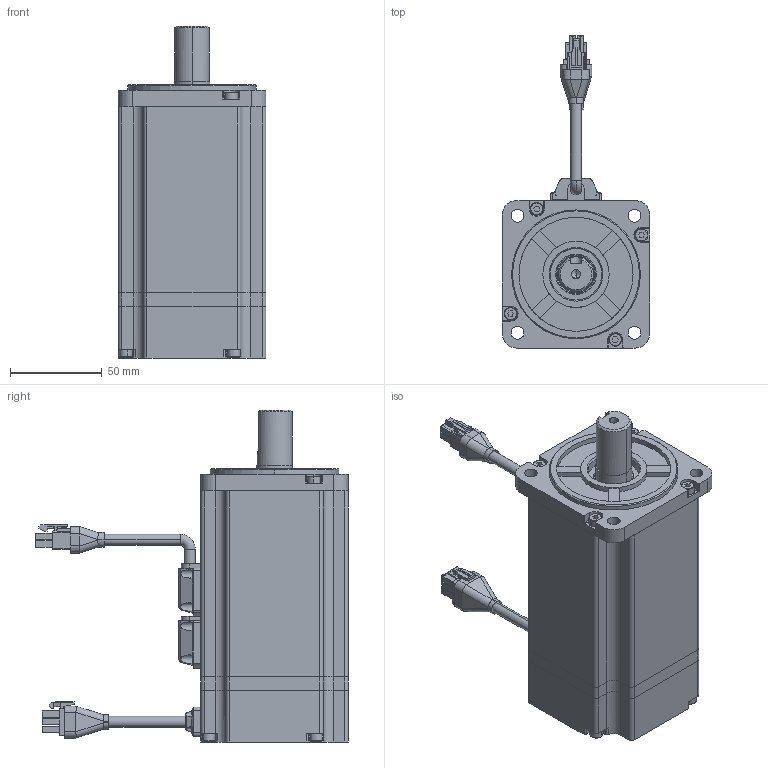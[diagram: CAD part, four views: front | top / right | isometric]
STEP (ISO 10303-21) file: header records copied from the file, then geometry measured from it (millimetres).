
FILE_DESCRIPTION (( 'STEP AP203' ), '1' );
FILE_NAME ('750W-002.STEP', '2019-08-11T09:10:50', ( '1' ), ( 'MideaGroup IT' ), 'SwSTEP 2.0', 'SolidWorks 2012', '' );
FILE_SCHEMA (( 'CONFIG_CONTROL_DESIGN' ));
Length unit declared in the file: millimetre
Products named in the file (20): 雄薯盄揤裔郪璃; 雄薯盄傷赽裔; M2.5X5_GB_CROSS_SCREWS_TYPE3 M2.5X8-8-N; 雄薯盄; 雄薯盄傷赽; 雄薯盄躇猾菜; 雄薯盄揤裔; 萇儂粣-001; 6004_Rolling bearings 6004 GB 276-94; M4x20; 綴裔-001; ヶ傷裔-001; 綴傷裔-001; 儂褲-001; 750W-002; 毀嚏盄揤裔郪璃; 毀嚏盄傷赽揤裔; 晤鎢ん盄傷赽; 晤鎢ん盄揤裔躇猾; 晤鎢ん盄揤裔
Assembly tree (39 placements, depth 3):
  750W-002
    儂褲-001
    綴傷裔-001
    ヶ傷裔-001
    綴裔-001
    M4x20  x8
    6004_Rolling bearings 6004 GB 276-94
    萇儂粣-001
    雄薯盄揤裔郪璃
      雄薯盄揤裔
      雄薯盄躇猾菜
      雄薯盄傷赽
      雄薯盄
      M2.5X5_GB_CROSS_SCREWS_TYPE3 M2.5X8-8-N  x4
      雄薯盄傷赽裔
    毀嚏盄揤裔郪璃
      晤鎢ん盄揤裔
      晤鎢ん盄揤裔躇猾
      晤鎢ん盄傷赽
      M2.5X5_GB_CROSS_SCREWS_TYPE3 M2.5X8-8-N  x4
      毀嚏盄傷赽揤裔
    雄薯盄躇猾菜
    雄薯盄揤裔
    M2.5X5_GB_CROSS_SCREWS_TYPE3 M2.5X8-8-N  x4
Bounding box: 80.2 x 170 x 180.5 mm (x, y, z)
Volume: 329595.6 mm3; surface area: 166634.1 mm2
Topology: 39 solids, 65 shells, 1786 faces, 5037 edges, 3354 vertices
Faces by surface type: plane 855, cylinder 685, cone 97, torus 79, sphere 56, bspline 14
Entity records: 46738 total; most frequent: CARTESIAN_POINT 11354, DIRECTION 6866, ORIENTED_EDGE 6717, EDGE_CURVE 3539, AXIS2_PLACEMENT_3D 2476, VERTEX_POINT 2366, VECTOR 1914, LINE 1914
